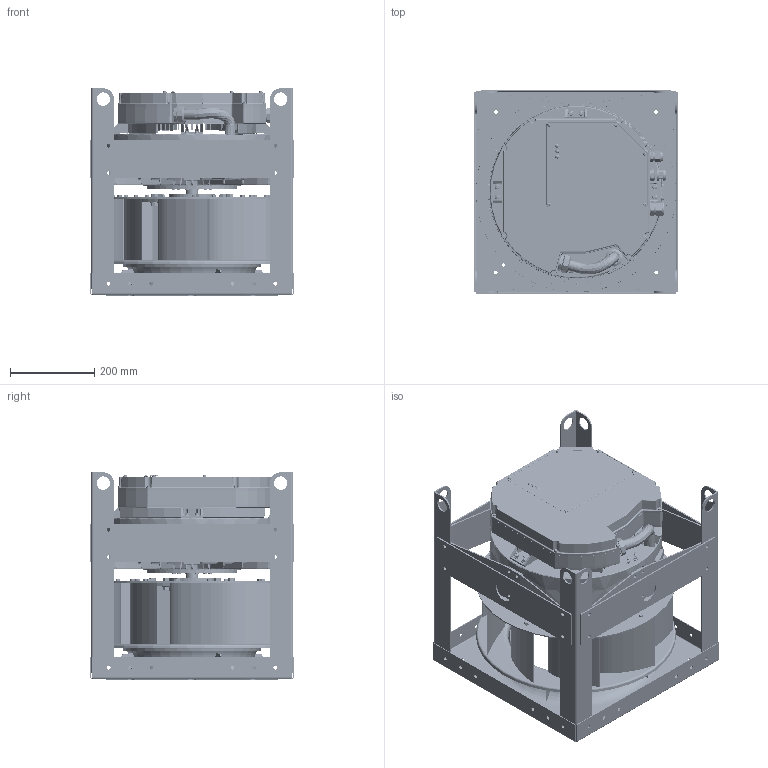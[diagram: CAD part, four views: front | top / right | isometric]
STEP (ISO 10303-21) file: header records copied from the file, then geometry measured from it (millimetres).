
FILE_DESCRIPTION (( 'STEP AP214' ), '1' );
FILE_NAME ('655768.STEP', '2026-06-10T13:50:30', ( '' ), ( '' ), 'SwSTEP 2.0', 'SolidWorks 2023', '' );
FILE_SCHEMA (( 'AUTOMOTIVE_DESIGN' ));
Length unit declared in the file: inch
Products named in the file (19): 651601_651601; 925517CS_925517CS; SXP18-9 BP_682875; 941770_BUSHING  TB2012 X 1.125; 651595_651595; 655768; 941044_941044; SXP18 WHEEL WELDMENT_687053; SXP18 BLADE_767250; SXPI STRAP_651580; SXP18 FP_651356; SXP18 INLET_651354; 941156_941156; 941768_941768; 651600_651600; SXP18 INLET ASSY_687066; 941153_941153; SXP18 WHEEL ASSY_655591; SXP18 BAFFLE_682897
Assembly tree (83 placements, depth 4):
  655768
    651595_651595
    SXP18 WHEEL ASSY_655591
      SXP18 WHEEL WELDMENT_687053
        SXP18 FP_651356
        SXP18 BLADE_767250  x9
        SXP18-9 BP_682875
        941044_941044  x36
      941153_941153  x6
      941156_941156  x6
      941768_941768
    SXP18 INLET ASSY_687066
      SXP18 INLET_651354
      SXP18 BAFFLE_682897  x4
    925517CS_925517CS
    941770_BUSHING  TB2012 X 1.125
    651601_651601  x4
    651600_651600  x4
    SXPI STRAP_651580  x4
Bounding box: 485.39 x 485.39 x 491.8 mm (x, y, z)
Volume: 4713554.9 mm3; surface area: 4430675.4 mm2
Topology: 79 solids, 301 shells, 7588 faces, 22589 edges, 15179 vertices
Faces by surface type: plane 2782, cylinder 1994, bspline 1552, cone 847, torus 408, sphere 5
Full cylindrical faces by diameter (mm): 2.9 x2, 3.962 x8, 4.762 x9, 4.763 x9, 5.105 x16, 6 x144, 6.35 x36, 7 x5, 7.137 x16, 7.544 x2, 7.937 x3, 7.938 x1, 8.5 x1, 8.738 x87, 9 x5, 9.525 x12, 9.73 x8, 10.1 x1, 10.2 x1, 11.8 x7, 12.5 x1, 12.6 x1, 13 x7, 13.208 x36, 14 x1, 14.097 x6, 17.462 x4, 19.05 x6, 20.32 x8, 20.637 x6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
Entity records: 318465 total; most frequent: CARTESIAN_POINT 215149, ORIENTED_EDGE 20963, DIRECTION 18426, EDGE_CURVE 12895, VERTEX_POINT 9112, AXIS2_PLACEMENT_3D 7288, EDGE_LOOP 5168, FACE_OUTER_BOUND 4453
